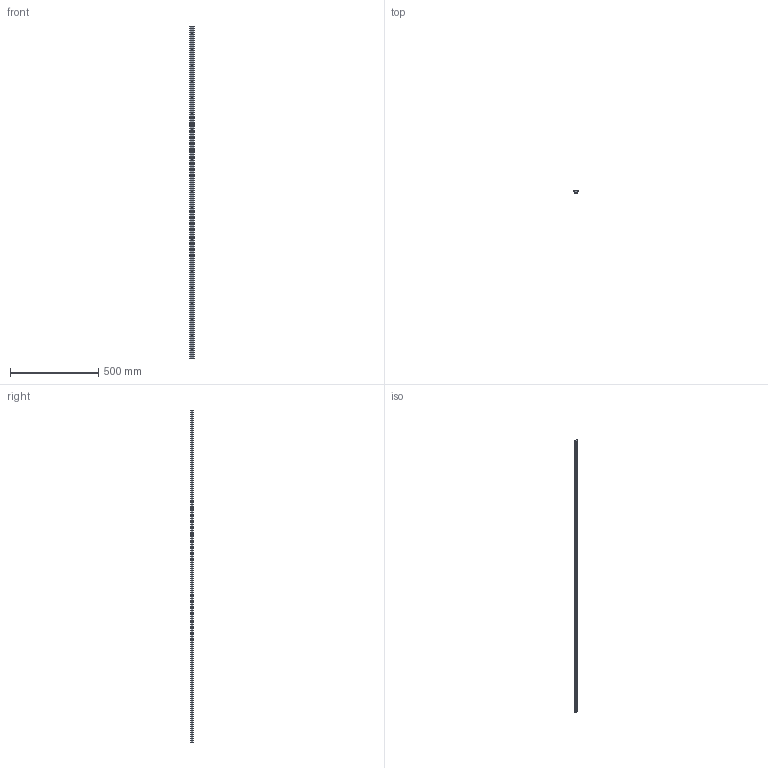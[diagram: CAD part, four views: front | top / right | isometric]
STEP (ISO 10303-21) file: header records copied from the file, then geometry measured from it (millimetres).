
FILE_DESCRIPTION(('STEP AP203'),'1');
FILE_NAME('slide_ns25l1886p1.stp','2022-07-01T04:26:21',('TraceParts'),('TraceParts S.A.'),'Spatial InterOp 3D',' ',' ');
FILE_SCHEMA(('CONFIG_CONTROL_DESIGN'));
Length unit declared in the file: millimetre
Products named in the file (1): 1
Bounding box: 24.61 x 12.26 x 1886 mm (x, y, z)
Volume: 351883.6 mm3; surface area: 144622.5 mm2
Topology: 1 solids, 1 shells, 147 faces, 372 edges, 248 vertices
Faces by surface type: cylinder 104, plane 43
Entity records: 4662 total; most frequent: DIRECTION 876, CARTESIAN_POINT 768, ORIENTED_EDGE 744, EDGE_CURVE 372, AXIS2_PLACEMENT_3D 356, VERTEX_POINT 248, EDGE_LOOP 210, CIRCLE 208
